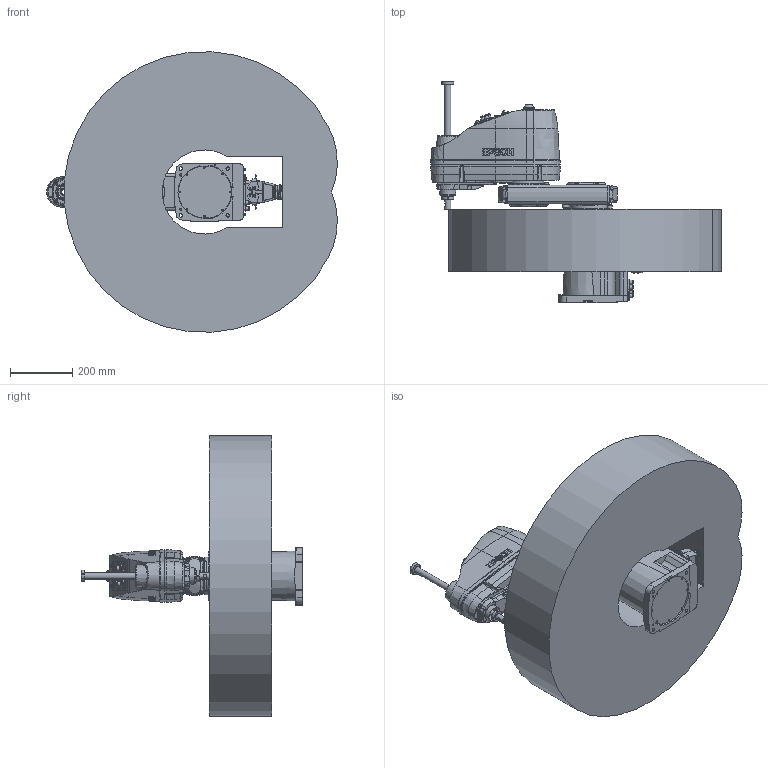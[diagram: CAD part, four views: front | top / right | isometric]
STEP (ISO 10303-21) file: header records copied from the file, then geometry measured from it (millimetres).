
FILE_DESCRIPTION( ( 'STEP AP214' ), '1' );
FILE_NAME( 'C:/Users/9607552/Desktop/GX8-B452S_straight.stp', '2023-07-07T01:51:44', ( '' ), ( '' ), ' ', 'PARTsolutions', ' ' );
FILE_SCHEMA( ( 'AUTOMOTIVE_DESIGN { 1 0 10303 214 1 1 1 1 }' ) );
Length unit declared in the file: millimetre
Products named in the file (9): GX8-B452SS-W; _B452S_BASE; _B452S; _B452S_1; _B452S_2; _B452S_J2; _B452SZA; _Straight-B; _GX8-13-B_WS
Assembly tree (10 placements, depth 2):
  GX8-B452SS-W
    _B452S_BASE
    _B452S
    _B452S_1  x2
    _B452S_2  x2
    _B452S_J2
    _B452SZA
    _Straight-B
    _GX8-13-B_WS
Bounding box: 931.38 x 709 x 898.63 mm (x, y, z)
Volume: 130247189.8 mm3; surface area: 2936618 mm2
Topology: 10 solids, 10 shells, 2887 faces, 7042 edges, 4586 vertices
Faces by surface type: plane 1437, cylinder 920, cone 365, torus 122, bspline 37, sphere 6
Full cylindrical faces by diameter (mm): 1 x48, 1.18 x55, 2.261 x4, 2.459 x12, 3 x32, 3.242 x18, 3.3 x5, 3.9 x4, 4 x4, 4.2 x8, 4.5 x4, 4.8 x4, 5.34 x4, 5.5 x17, 6 x1, 6.2 x4, 6.647 x4, 6.8 x2, 7 x48, 8 x5, 8.5 x4, 9 x24, 10 x18, 11 x4, 11.2 x5, 11.5 x1, 12 x5, 12.25 x1, 13 x3, 13.2 x12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
Entity records: 103061 total; most frequent: CARTESIAN_POINT 19674, DIRECTION 12682, ORIENTED_EDGE 11734, EDGE_CURVE 5867, AXIS2_PLACEMENT_3D 4903, VERTEX_POINT 4216, EDGE_LOOP 3814, FACE_OUTER_BOUND 3176
